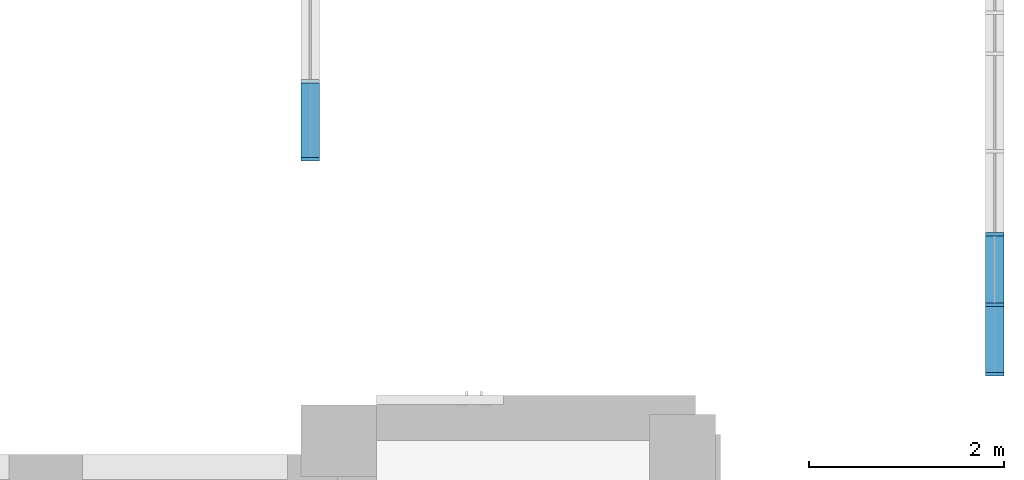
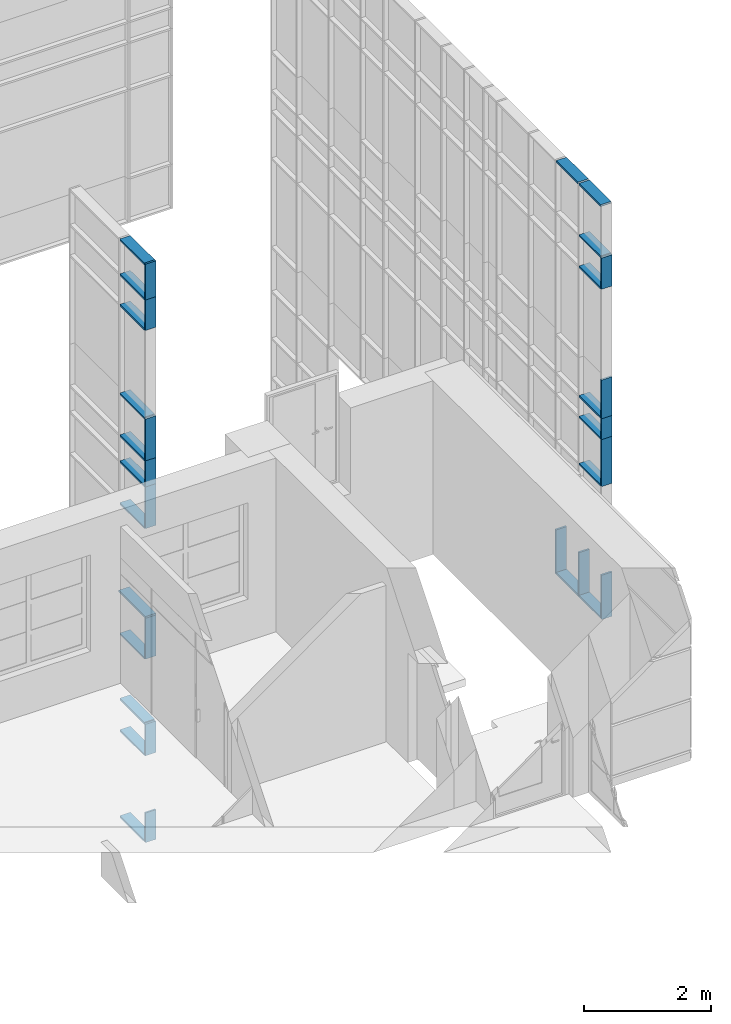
# One storey, part 12 of 73: 36 members, 2 elements without a shape of their own.
"""IFC2X3 building model written with IfcOpenShell, lengths in millimetres."""

from ifc_helpers import new_model, entity, si_unit, converted_unit, derived_unit, direction, frame, frame_2d, origin, origin_2d_with_axis, place, context, subcontext, project, spatial, rectangle, extrude, source, transform, mapped, material, type_object, type_shapes, element, aggregate, save


model = new_model("IFC2X3")

# Units and contexts
model_context = context("Model", 3, precision=0.01, world=origin(), true_north=direction((6.12303176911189e-17, 1.0)))
body_context = subcontext(model_context, "Body", "Model", "MODEL_VIEW")
ifc_project = project(units=[si_unit("LENGTHUNIT", "METRE", prefix="MILLI"), si_unit("AREAUNIT", "SQUARE_METRE"), si_unit("VOLUMEUNIT", "CUBIC_METRE"), converted_unit("PLANEANGLEUNIT", "DEGREE", entity("IfcRatioMeasure", 0.0174532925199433), si_unit("PLANEANGLEUNIT", "RADIAN"), dimensions=[0, 0, 0, 0, 0, 0, 0]), si_unit("MASSUNIT", "GRAM", prefix="KILO"), derived_unit("MASSDENSITYUNIT", [(si_unit("MASSUNIT", "GRAM", prefix="KILO"), 1), (si_unit("LENGTHUNIT", "METRE"), -3)]), si_unit("TIMEUNIT", "SECOND"), si_unit("FREQUENCYUNIT", "HERTZ"), si_unit("THERMODYNAMICTEMPERATUREUNIT", "DEGREE_CELSIUS"), derived_unit("THERMALTRANSMITTANCEUNIT", [(si_unit("MASSUNIT", "GRAM", prefix="KILO"), 1), (si_unit("THERMODYNAMICTEMPERATUREUNIT", "KELVIN"), -1), (si_unit("TIMEUNIT", "SECOND"), -3)]), derived_unit("VOLUMETRICFLOWRATEUNIT", [(si_unit("LENGTHUNIT", "METRE"), 3), (si_unit("TIMEUNIT", "SECOND"), -1)]), si_unit("ELECTRICCURRENTUNIT", "AMPERE"), si_unit("ELECTRICVOLTAGEUNIT", "VOLT"), si_unit("POWERUNIT", "WATT"), si_unit("FORCEUNIT", "NEWTON", prefix="KILO"), si_unit("ILLUMINANCEUNIT", "LUX"), si_unit("LUMINOUSFLUXUNIT", "LUMEN"), si_unit("LUMINOUSINTENSITYUNIT", "CANDELA"), derived_unit("USERDEFINED", [(si_unit("MASSUNIT", "GRAM", prefix="KILO"), -1), (si_unit("LENGTHUNIT", "METRE"), -2), (si_unit("TIMEUNIT", "SECOND"), 3), (si_unit("LUMINOUSFLUXUNIT", "LUMEN"), 1)]), derived_unit("LINEARVELOCITYUNIT", [(si_unit("LENGTHUNIT", "METRE"), 1), (si_unit("TIMEUNIT", "SECOND"), -1)]), si_unit("PRESSUREUNIT", "PASCAL"), derived_unit("USERDEFINED", [(si_unit("LENGTHUNIT", "METRE"), -2), (si_unit("MASSUNIT", "GRAM", prefix="KILO"), 1), (si_unit("TIMEUNIT", "SECOND"), -2)])], contexts=[model_context])

# Site, building, storey
site_placement = place(None, frame((-151.875543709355, 2715.0, 0.0)))
site = spatial("IfcSite", under=ifc_project, at=site_placement, Name="Surface", CompositionType="ELEMENT")
building_placement = place(site_placement, origin())
building = spatial("IfcBuilding", under=site, at=building_placement, CompositionType="ELEMENT")
storey_placement = place(building_placement, frame((0.0, 0.0, 6730.43000000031)))
storey = spatial("IfcBuildingStorey", under=building, at=storey_placement, Name="3 korrus", CompositionType="ELEMENT", Elevation=6730.43000000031)

# Curtain wall, members
curtain_wall_type = type_object("IfcCurtainWallType", Name="Curtain Wall:Klaasfassaad", PredefinedType="NOTDEFINED")
curtain_wall_1_placement = place(storey_placement, frame((0.0, 0.0, -6730.43000000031)))
curtain_wall_1 = element("IfcCurtainWall", 1, at=curtain_wall_1_placement, inside=storey, type_object=curtain_wall_type, Name="Curtain Wall:Klaasfassaad", ObjectType="Curtain Wall:Klaasfassaad")
ifc_material = material(Name="Steel/Aluminium")
member_type_1 = type_object("IfcMemberType", Name="35 x 190mm", PredefinedType="MEMBER")
shared_shape_1 = source(origin(), body_context, "Body", "SweptSolid", [
    extrude(rectangle(XDim=190.0, YDim=35.0, at=origin_2d_with_axis()), frame((-17.5, 0.0, -677.500026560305), z_axis=(0.0, 0.0, 1.0), x_axis=(0.0, -1.0, 0.0)), (0.0, 0.0, 1.0), 677.500026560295),
])
type_shapes(member_type_1, [shared_shape_1])
member_1_placement = place(storey_placement, frame((38701.6162681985, 13445.5004299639, -2856.00226032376), z_axis=(0.0, -1.0, 0.0), x_axis=(0.0, 0.0, -1.0)))
member_1 = element("IfcMember", 2, at=member_1_placement, type_object=member_type_1, material=ifc_material, Name="Rectangular Mullion:35 x 190mm", ObjectType="35 x 190mm", context=body_context, shape_type="MappedRepresentation", body=[
    mapped(shared_shape_1, transform((0.0, 0.0, 0.0), scale=1.0)),
])
member_type_2 = type_object("IfcMemberType", Name="35 x 190mm", PredefinedType="MEMBER")
shared_shape_2 = source(origin(), body_context, "Body", "SweptSolid", [
    extrude(rectangle(XDim=190.0, YDim=35.0, at=origin_2d_with_axis()), frame((-17.5, 0.0, -677.500026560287), z_axis=(0.0, 0.0, 1.0), x_axis=(0.0, -1.0, 0.0)), (0.0, 0.0, 1.0), 677.500026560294),
])
type_shapes(member_type_2, [shared_shape_2])
member_2_placement = place(storey_placement, frame((38701.6162681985, 14123.0004565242, 5074.47692901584), z_axis=(0.0, 1.0, 0.0), x_axis=(0.0, 0.0, 1.0)))
member_2 = element("IfcMember", 3, at=member_2_placement, type_object=member_type_2, material=ifc_material, Name="Rectangular Mullion:35 x 190mm", ObjectType="35 x 190mm", context=body_context, shape_type="MappedRepresentation", body=[
    mapped(shared_shape_2, transform((0.0, 0.0, 0.0), scale=1.0)),
])
member_type_3 = type_object("IfcMemberType", Name="35 x 190mm", PredefinedType="MEMBER")
shared_shape_3 = source(origin(), body_context, "Body", "SweptSolid", [
    extrude(rectangle(XDim=190.0, YDim=35.0, at=origin_2d_with_axis()), frame((-17.5, 0.0, -685.0), z_axis=(0.0, 0.0, 1.0), x_axis=(0.0, -1.0, 0.0)), (0.0, 0.0, 1.0), 684.999999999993),
])
type_shapes(member_type_3, [shared_shape_3])
member_3_placement = place(storey_placement, frame((38701.6162681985, 14158.0004565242, -2856.00226032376), z_axis=(0.0, -1.0, 0.0), x_axis=(0.0, 0.0, -1.0)))
member_3 = element("IfcMember", 4, at=member_3_placement, type_object=member_type_3, material=ifc_material, Name="Rectangular Mullion:35 x 190mm", ObjectType="35 x 190mm", context=body_context, shape_type="MappedRepresentation", body=[
    mapped(shared_shape_3, transform((0.0, 0.0, 0.0), scale=1.0)),
])
member_type_4 = type_object("IfcMemberType", Name="35 x 190mm", PredefinedType="MEMBER")
shared_shape_4 = source(origin(), body_context, "Body", "SweptSolid", [
    extrude(rectangle(XDim=190.0, YDim=35.0, at=origin_2d_with_axis()), frame((-17.5, 0.0, -685.0), z_axis=(0.0, 0.0, 1.0), x_axis=(0.0, -1.0, 0.0)), (0.0, 0.0, 1.0), 684.999999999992),
])
type_shapes(member_type_4, [shared_shape_4])
member_4_placement = place(storey_placement, frame((38701.6162681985, 14843.0004565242, 5074.47692901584), z_axis=(0.0, 1.0, 0.0), x_axis=(0.0, 0.0, 1.0)))
member_4 = element("IfcMember", 5, at=member_4_placement, type_object=member_type_4, material=ifc_material, Name="Rectangular Mullion:35 x 190mm", ObjectType="35 x 190mm", context=body_context, shape_type="MappedRepresentation", body=[
    mapped(shared_shape_4, transform((0.0, 0.0, 0.0), scale=1.0)),
])
member_type_5 = type_object("IfcMemberType", Name="35 x 190mm", PredefinedType="MEMBER")
shared_shape_5 = source(origin(), body_context, "Body", "SweptSolid", [
    extrude(rectangle(XDim=190.0, YDim=35.0, at=origin_2d_with_axis()), frame((-17.5, 0.0, -600.0), z_axis=(0.0, 0.0, 1.0), x_axis=(0.0, -1.0, 0.0)), (0.0, 0.0, 1.0), 600.0),
])
type_shapes(member_type_5, [shared_shape_5])
member_5_placement = place(storey_placement, frame((38701.6162681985, 13410.5004299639, 4074.47692901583), z_axis=(0.0, 0.0, 1.0), x_axis=(0.0, -1.0, 0.0)))
member_5 = element("IfcMember", 6, at=member_5_placement, type_object=member_type_5, material=ifc_material, Name="Rectangular Mullion:35 x 190mm", ObjectType="35 x 190mm", context=body_context, shape_type="MappedRepresentation", body=[
    mapped(shared_shape_5, transform((0.0, 0.0, 0.0), scale=1.0)),
])
member_type_6 = type_object("IfcMemberType", Name="35 x 190mm", PredefinedType="MEMBER")
shared_shape_6 = source(origin(), body_context, "Body", "SweptSolid", [
    extrude(rectangle(XDim=190.0, YDim=35.0, at=origin_2d_with_axis()), frame((-17.5, 0.0, -400.0), z_axis=(0.0, 0.0, 1.0), x_axis=(0.0, -1.0, 0.0)), (0.0, 0.0, 1.0), 399.999999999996),
])
type_shapes(member_type_6, [shared_shape_6])
member_6_placement = place(storey_placement, frame((38701.6162681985, 13410.5004299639, 994.476929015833), z_axis=(0.0, 0.0, 1.0), x_axis=(0.0, -1.0, 0.0)))
member_6 = element("IfcMember", 7, at=member_6_placement, type_object=member_type_6, material=ifc_material, Name="Rectangular Mullion:35 x 190mm", ObjectType="35 x 190mm", context=body_context, shape_type="MappedRepresentation", body=[
    mapped(shared_shape_6, transform((0.0, 0.0, 0.0), scale=1.0)),
])
member_type_7 = type_object("IfcMemberType", Name="35 x 190mm", PredefinedType="MEMBER")
shared_shape_7 = source(origin(), body_context, "Body", "SweptSolid", [
    extrude(rectangle(XDim=190.0, YDim=35.0, at=origin_2d_with_axis()), frame((-17.5, 0.0, -900.0), z_axis=(0.0, 0.0, 1.0), x_axis=(0.0, -1.0, 0.0)), (0.0, 0.0, 1.0), 900.000000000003),
])
type_shapes(member_type_7, [shared_shape_7])
member_7_placement = place(storey_placement, frame((38701.6162681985, 13410.5004299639, 594.476929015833), z_axis=(0.0, 0.0, 1.0), x_axis=(0.0, -1.0, 0.0)))
member_7 = element("IfcMember", 8, at=member_7_placement, type_object=member_type_7, material=ifc_material, Name="Rectangular Mullion:35 x 190mm", ObjectType="35 x 190mm", context=body_context, shape_type="MappedRepresentation", body=[
    mapped(shared_shape_7, transform((0.0, 0.0, 0.0), scale=1.0)),
])
member_type_8 = type_object("IfcMemberType", Name="35 x 190mm", PredefinedType="MEMBER")
shared_shape_8 = source(origin(), body_context, "Body", "SweptSolid", [
    extrude(rectangle(XDim=190.0, YDim=35.0, at=origin_2d_with_axis()), frame((0.0, 0.0, -850.159729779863), z_axis=(0.0, 0.0, 1.0), x_axis=(0.0, -1.0, 0.0)), (0.0, 0.0, 1.0), 850.159729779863),
])
type_shapes(member_type_8, [shared_shape_8])
member_8_placement = place(storey_placement, frame((38701.6162681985, 14140.5004565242, -2856.00226032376), z_axis=(0.0, 0.0, -1.0), x_axis=(0.0, 1.0, 0.0)))
member_8 = element("IfcMember", 9, at=member_8_placement, type_object=member_type_8, material=ifc_material, Name="Rectangular Mullion:35 x 190mm", ObjectType="35 x 190mm", context=body_context, shape_type="MappedRepresentation", body=[
    mapped(shared_shape_8, transform((0.0, 0.0, 0.0), scale=1.0)),
])
member_9_placement = place(storey_placement, frame((38701.6162681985, 14860.5004565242, -2856.00226032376), z_axis=(0.0, 0.0, -1.0), x_axis=(0.0, 1.0, 0.0)))
member_9 = element("IfcMember", 10, at=member_9_placement, type_object=member_type_8, material=ifc_material, Name="Rectangular Mullion:35 x 190mm", ObjectType="35 x 190mm", context=body_context, shape_type="MappedRepresentation", body=[
    mapped(shared_shape_8, transform((0.0, 0.0, 0.0), scale=1.0)),
])
member_type_9 = type_object("IfcMemberType", Name="35 x 190mm", PredefinedType="MEMBER")
shared_shape_9 = source(origin(), body_context, "Body", "SweptSolid", [
    extrude(rectangle(XDim=190.0, YDim=35.0, at=origin_2d_with_axis()), frame((0.0, 0.0, -677.500026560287), z_axis=(0.0, 0.0, 1.0), x_axis=(0.0, -1.0, 0.0)), (0.0, 0.0, 1.0), 677.500026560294),
])
type_shapes(member_type_9, [shared_shape_9])
member_10_placement = place(storey_placement, frame((38701.6162681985, 14123.0004565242, 4074.47692901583), z_axis=(0.0, 1.0, 0.0), x_axis=(0.0, 0.0, 1.0)))
member_10 = element("IfcMember", 11, at=member_10_placement, type_object=member_type_9, material=ifc_material, Name="Rectangular Mullion:35 x 190mm", ObjectType="35 x 190mm", context=body_context, shape_type="MappedRepresentation", body=[
    mapped(shared_shape_9, transform((0.0, 0.0, 0.0), scale=1.0)),
])
member_type_10 = type_object("IfcMemberType", Name="35 x 190mm", PredefinedType="MEMBER")
shared_shape_10 = source(origin(), body_context, "Body", "SweptSolid", [
    extrude(rectangle(XDim=190.0, YDim=35.0, at=origin_2d_with_axis()), frame((0.0, 0.0, -677.500026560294), z_axis=(0.0, 0.0, 1.0), x_axis=(0.0, -1.0, 0.0)), (0.0, 0.0, 1.0), 677.500026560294),
])
type_shapes(member_type_10, [shared_shape_10])
member_11_placement = place(storey_placement, frame((38701.6162681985, 14123.0004565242, 3474.47692901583), z_axis=(0.0, 1.0, 0.0), x_axis=(0.0, 0.0, 1.0)))
member_11 = element("IfcMember", 12, at=member_11_placement, type_object=member_type_10, material=ifc_material, Name="Rectangular Mullion:35 x 190mm", ObjectType="35 x 190mm", context=body_context, shape_type="MappedRepresentation", body=[
    mapped(shared_shape_10, transform((0.0, 0.0, 0.0), scale=1.0)),
])
member_type_11 = type_object("IfcMemberType", Name="35 x 190mm", PredefinedType="MEMBER")
shared_shape_11 = source(origin(), body_context, "Body", "SweptSolid", [
    extrude(rectangle(XDim=190.0, YDim=35.0, at=origin_2d_with_axis()), frame((0.0, 0.0, -677.500026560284), z_axis=(0.0, 0.0, 1.0), x_axis=(0.0, -1.0, 0.0)), (0.0, 0.0, 1.0), 677.500026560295),
])
type_shapes(member_type_11, [shared_shape_11])
member_12_placement = place(storey_placement, frame((38701.6162681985, 14123.0004565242, 994.476929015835), z_axis=(0.0, 1.0, 0.0), x_axis=(0.0, 0.0, 1.0)))
member_12 = element("IfcMember", 13, at=member_12_placement, type_object=member_type_11, material=ifc_material, Name="Rectangular Mullion:35 x 190mm", ObjectType="35 x 190mm", context=body_context, shape_type="MappedRepresentation", body=[
    mapped(shared_shape_11, transform((0.0, 0.0, 0.0), scale=1.0)),
])
member_type_12 = type_object("IfcMemberType", Name="35 x 190mm", PredefinedType="MEMBER")
shared_shape_12 = source(origin(), body_context, "Body", "SweptSolid", [
    extrude(rectangle(XDim=190.0, YDim=35.0, at=origin_2d_with_axis()), frame((0.0, 0.0, -677.500026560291), z_axis=(0.0, 0.0, 1.0), x_axis=(0.0, -1.0, 0.0)), (0.0, 0.0, 1.0), 677.500026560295),
])
type_shapes(member_type_12, [shared_shape_12])
member_13_placement = place(storey_placement, frame((38701.6162681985, 14123.0004565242, 594.476929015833), z_axis=(0.0, 1.0, 0.0), x_axis=(0.0, 0.0, 1.0)))
member_13 = element("IfcMember", 14, at=member_13_placement, type_object=member_type_12, material=ifc_material, Name="Rectangular Mullion:35 x 190mm", ObjectType="35 x 190mm", context=body_context, shape_type="MappedRepresentation", body=[
    mapped(shared_shape_12, transform((0.0, 0.0, 0.0), scale=1.0)),
])
member_type_13 = type_object("IfcMemberType", Name="35 x 190mm", PredefinedType="MEMBER")
shared_shape_13 = source(origin(), body_context, "Body", "SweptSolid", [
    extrude(rectangle(XDim=190.0, YDim=35.0, at=origin_2d_with_axis()), frame((0.0, 0.0, -677.500026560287), z_axis=(0.0, 0.0, 1.0), x_axis=(0.0, -1.0, 0.0)), (0.0, 0.0, 1.0), 677.500026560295),
])
type_shapes(member_type_13, [shared_shape_13])
member_14_placement = place(storey_placement, frame((38701.6162681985, 14123.0004565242, -305.523070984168), z_axis=(0.0, 1.0, 0.0), x_axis=(0.0, 0.0, 1.0)))
member_14 = element("IfcMember", 15, at=member_14_placement, type_object=member_type_13, material=ifc_material, Name="Rectangular Mullion:35 x 190mm", ObjectType="35 x 190mm", context=body_context, shape_type="MappedRepresentation", body=[
    mapped(shared_shape_13, transform((0.0, 0.0, 0.0), scale=1.0)),
])
member_type_14 = type_object("IfcMemberType", Name="35 x 190mm", PredefinedType="MEMBER")
shared_shape_14 = source(origin(), body_context, "Body", "SweptSolid", [
    extrude(rectangle(XDim=190.0, YDim=35.0, at=origin_2d_with_axis()), frame((-17.5, 0.0, -740.0), z_axis=(0.0, 0.0, 1.0), x_axis=(0.0, -1.0, 0.0)), (0.0, 0.0, 1.0), 740.000000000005),
])
type_shapes(member_type_14, [shared_shape_14])
member_15_placement = place(storey_placement, frame((38701.6162681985, 13410.5004299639, 1734.47692901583), z_axis=(0.0, 0.0, 1.0), x_axis=(0.0, -1.0, 0.0)))
member_15 = element("IfcMember", 16, at=member_15_placement, type_object=member_type_14, material=ifc_material, Name="Rectangular Mullion:35 x 190mm", ObjectType="35 x 190mm", context=body_context, shape_type="MappedRepresentation", body=[
    mapped(shared_shape_14, transform((0.0, 0.0, 0.0), scale=1.0)),
])
member_type_15 = type_object("IfcMemberType", Name="35 x 190mm", PredefinedType="MEMBER")
shared_shape_15 = source(origin(), body_context, "Body", "SweptSolid", [
    extrude(rectangle(XDim=190.0, YDim=35.0, at=origin_2d_with_axis()), frame((-17.5, 0.0, -850.159729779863), z_axis=(0.0, 0.0, 1.0), x_axis=(0.0, -1.0, 0.0)), (0.0, 0.0, 1.0), 850.159729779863),
])
type_shapes(member_type_15, [shared_shape_15])
member_16_placement = place(storey_placement, frame((38701.6162681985, 13410.5004299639, -2005.8425305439), z_axis=(0.0, 0.0, 1.0), x_axis=(0.0, -1.0, 0.0)))
member_16 = element("IfcMember", 17, at=member_16_placement, type_object=member_type_15, material=ifc_material, Name="Rectangular Mullion:35 x 190mm", ObjectType="35 x 190mm", context=body_context, shape_type="MappedRepresentation", body=[
    mapped(shared_shape_15, transform((0.0, 0.0, 0.0), scale=1.0)),
])
aggregate(curtain_wall_1, [member_1, member_2, member_3, member_4, member_5, member_6, member_7, member_8, member_9, member_10, member_11, member_12, member_13, member_14, member_15, member_16])

curtain_wall_2_placement = place(storey_placement, frame((0.0, 0.0, -6730.43000000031)))
curtain_wall_2 = element("IfcCurtainWall", 18, at=curtain_wall_2_placement, inside=storey, type_object=curtain_wall_type, Name="Curtain Wall:Klaasfassaad", ObjectType="Curtain Wall:Klaasfassaad")
member_type_16 = type_object("IfcMemberType", Name="35 x 190mm", PredefinedType="MEMBER")
shared_shape_16 = source(origin(), body_context, "Body", "SweptSolid", [
    extrude(rectangle(XDim=190.0, YDim=35.0, at=frame_2d((1.13686837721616e-13, 0.0), x_axis=(1.0, 0.0))), frame((-17.5, 0.0, -767.454261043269), z_axis=(0.0, 0.0, 1.0), x_axis=(0.0, -1.0, 0.0)), (0.0, 0.0, 1.0), 767.454261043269),
])
type_shapes(member_type_16, [shared_shape_16])
member_17_placement = place(storey_placement, frame((31697.6162682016, 15645.0, 5074.47692901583), z_axis=(0.0, -1.0, 0.0), x_axis=(0.0, 0.0, 1.0)))
member_17 = element("IfcMember", 19, at=member_17_placement, type_object=member_type_16, material=ifc_material, Name="Rectangular Mullion:35 x 190mm", ObjectType="35 x 190mm", context=body_context, shape_type="MappedRepresentation", body=[
    mapped(shared_shape_16, transform((0.0, 0.0, 0.0), scale=1.0)),
])
member_type_17 = type_object("IfcMemberType", Name="35 x 190mm", PredefinedType="MEMBER")
shared_shape_17 = source(origin(), body_context, "Body", "SweptSolid", [
    extrude(rectangle(XDim=190.0, YDim=35.0, at=origin_2d_with_axis()), frame((-17.5, 0.0, -568.724873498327), z_axis=(0.0, 0.0, 1.0), x_axis=(0.0, -1.0, 0.0)), (0.0, 0.0, 1.0), 568.724873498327),
])
type_shapes(member_type_17, [shared_shape_17])
member_18_placement = place(storey_placement, frame((31697.6162682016, 15610.0, -6015.42999999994), z_axis=(0.0, 0.0, -1.0), x_axis=(0.0, -1.0, 0.0)))
member_18 = element("IfcMember", 20, at=member_18_placement, type_object=member_type_17, material=ifc_material, Name="Rectangular Mullion:35 x 190mm", ObjectType="35 x 190mm", context=body_context, shape_type="MappedRepresentation", body=[
    mapped(shared_shape_17, transform((0.0, 0.0, 0.0), scale=1.0)),
])
member_type_18 = type_object("IfcMemberType", Name="35 x 190mm", PredefinedType="MEMBER")
shared_shape_18 = source(origin(), body_context, "Body", "SweptSolid", [
    extrude(rectangle(XDim=190.0, YDim=35.0, at=frame_2d((3.5527136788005e-14, 0.0), x_axis=(1.0, 0.0))), frame((-17.5, 0.0, -767.500000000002), z_axis=(0.0, 0.0, 1.0), x_axis=(0.0, -1.0, 0.0)), (0.0, 0.0, 1.0), 767.500000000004),
])
type_shapes(member_type_18, [shared_shape_18])
member_19_placement = place(storey_placement, frame((31697.6162682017, 16412.4542610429, -6015.42999999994), z_axis=(0.0, 1.0, 0.0), x_axis=(0.0, 0.0, -1.0)))
member_19 = element("IfcMember", 21, at=member_19_placement, type_object=member_type_18, material=ifc_material, Name="Rectangular Mullion:35 x 190mm", ObjectType="35 x 190mm", context=body_context, shape_type="MappedRepresentation", body=[
    mapped(shared_shape_18, transform((0.0, 0.0, 0.0), scale=1.0)),
])
member_type_19 = type_object("IfcMemberType", Name="35 x 190mm", PredefinedType="MEMBER")
shared_shape_19 = source(origin(), body_context, "Body", "SweptSolid", [
    extrude(rectangle(XDim=190.0, YDim=35.0, at=origin_2d_with_axis()), frame((-17.5, 0.0, -585.0), z_axis=(0.0, 0.0, 1.0), x_axis=(0.0, -1.0, 0.0)), (0.0, 0.0, 1.0), 585.000000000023),
])
type_shapes(member_type_19, [shared_shape_19])
member_20_placement = place(storey_placement, frame((31697.6162682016, 15610.0, 3803.29487349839), z_axis=(0.0, 0.0, -1.0), x_axis=(0.0, -1.0, 0.0)))
member_20 = element("IfcMember", 22, at=member_20_placement, type_object=member_type_19, material=ifc_material, Name="Rectangular Mullion:35 x 190mm", ObjectType="35 x 190mm", context=body_context, shape_type="MappedRepresentation", body=[
    mapped(shared_shape_19, transform((0.0, 0.0, 0.0), scale=1.0)),
])
member_type_20 = type_object("IfcMemberType", Name="35 x 190mm", PredefinedType="MEMBER")
shared_shape_20 = source(origin(), body_context, "Body", "SweptSolid", [
    extrude(rectangle(XDim=190.0, YDim=35.0, at=origin_2d_with_axis()), frame((-17.5, 0.0, -500.0), z_axis=(0.0, 0.0, 1.0), x_axis=(0.0, -1.0, 0.0)), (0.0, 0.0, 1.0), 499.999999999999),
])
type_shapes(member_type_20, [shared_shape_20])
member_21_placement = place(storey_placement, frame((31697.6162682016, 15610.0, 803.294873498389), z_axis=(0.0, 0.0, -1.0), x_axis=(0.0, -1.0, 0.0)))
member_21 = element("IfcMember", 23, at=member_21_placement, type_object=member_type_20, material=ifc_material, Name="Rectangular Mullion:35 x 190mm", ObjectType="35 x 190mm", context=body_context, shape_type="MappedRepresentation", body=[
    mapped(shared_shape_20, transform((0.0, 0.0, 0.0), scale=1.0)),
])
member_type_21 = type_object("IfcMemberType", Name="35 x 190mm", PredefinedType="MEMBER")
shared_shape_21 = source(origin(), body_context, "Body", "SweptSolid", [
    extrude(rectangle(XDim=190.0, YDim=35.0, at=origin_2d_with_axis()), frame((-17.5, 0.0, -800.0), z_axis=(0.0, 0.0, 1.0), x_axis=(0.0, -1.0, 0.0)), (0.0, 0.0, 1.0), 800.0),
])
type_shapes(member_type_21, [shared_shape_21])
member_22_placement = place(storey_placement, frame((31697.6162682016, 15610.0, 3.29487349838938), z_axis=(0.0, 0.0, -1.0), x_axis=(0.0, -1.0, 0.0)))
member_22 = element("IfcMember", 24, at=member_22_placement, type_object=member_type_21, material=ifc_material, Name="Rectangular Mullion:35 x 190mm", ObjectType="35 x 190mm", context=body_context, shape_type="MappedRepresentation", body=[
    mapped(shared_shape_21, transform((0.0, 0.0, 0.0), scale=1.0)),
])
member_23_placement = place(storey_placement, frame((31697.6162682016, 15610.0, 1303.29487349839), z_axis=(0.0, 0.0, -1.0), x_axis=(0.0, -1.0, 0.0)))
member_23 = element("IfcMember", 25, at=member_23_placement, type_object=member_type_21, material=ifc_material, Name="Rectangular Mullion:35 x 190mm", ObjectType="35 x 190mm", context=body_context, shape_type="MappedRepresentation", body=[
    mapped(shared_shape_21, transform((0.0, 0.0, 0.0), scale=1.0)),
])
member_type_22 = type_object("IfcMemberType", Name="35 x 190mm", PredefinedType="MEMBER")
shared_shape_22 = source(origin(), body_context, "Body", "SweptSolid", [
    extrude(rectangle(XDim=190.0, YDim=35.0, at=origin_2d_with_axis()), frame((-17.5, 0.0, -601.749025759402), z_axis=(0.0, 0.0, 1.0), x_axis=(0.0, -1.0, 0.0)), (0.0, 0.0, 1.0), 601.749025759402),
])
type_shapes(member_type_22, [shared_shape_22])
member_24_placement = place(storey_placement, frame((31697.6162682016, 15610.0, -4348.45415226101), z_axis=(0.0, 0.0, -1.0), x_axis=(0.0, -1.0, 0.0)))
member_24 = element("IfcMember", 26, at=member_24_placement, type_object=member_type_22, material=ifc_material, Name="Rectangular Mullion:35 x 190mm", ObjectType="35 x 190mm", context=body_context, shape_type="MappedRepresentation", body=[
    mapped(shared_shape_22, transform((0.0, 0.0, 0.0), scale=1.0)),
])
member_type_23 = type_object("IfcMemberType", Name="35 x 190mm", PredefinedType="MEMBER")
shared_shape_23 = source(origin(), body_context, "Body", "SweptSolid", [
    extrude(rectangle(XDim=190.0, YDim=35.0, at=origin_2d_with_axis()), frame((0.0, 0.0, -767.50000000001), z_axis=(0.0, 0.0, 1.0), x_axis=(0.0, -1.0, 0.0)), (0.0, 0.0, 1.0), 767.500000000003),
])
type_shapes(member_type_23, [shared_shape_23])
member_25_placement = place(storey_placement, frame((31697.6162682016, 15645.0, 3803.29487349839), z_axis=(0.0, -1.0, 0.0), x_axis=(0.0, 0.0, 1.0)))
member_25 = element("IfcMember", 27, at=member_25_placement, type_object=member_type_23, material=ifc_material, Name="Rectangular Mullion:35 x 190mm", ObjectType="35 x 190mm", context=body_context, shape_type="MappedRepresentation", body=[
    mapped(shared_shape_23, transform((0.0, 0.0, 0.0), scale=1.0)),
])
member_type_24 = type_object("IfcMemberType", Name="35 x 190mm", PredefinedType="MEMBER")
shared_shape_24 = source(origin(), body_context, "Body", "SweptSolid", [
    extrude(rectangle(XDim=190.0, YDim=35.0, at=origin_2d_with_axis()), frame((0.0, 0.0, -767.50000000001), z_axis=(0.0, 0.0, 1.0), x_axis=(0.0, -1.0, 0.0)), (0.0, 0.0, 1.0), 767.500000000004),
])
type_shapes(member_type_24, [shared_shape_24])
member_26_placement = place(storey_placement, frame((31697.6162682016, 15645.0, 2103.29487349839), z_axis=(0.0, -1.0, 0.0), x_axis=(0.0, 0.0, 1.0)))
member_26 = element("IfcMember", 28, at=member_26_placement, type_object=member_type_24, material=ifc_material, Name="Rectangular Mullion:35 x 190mm", ObjectType="35 x 190mm", context=body_context, shape_type="MappedRepresentation", body=[
    mapped(shared_shape_24, transform((0.0, 0.0, 0.0), scale=1.0)),
])
member_type_25 = type_object("IfcMemberType", Name="35 x 190mm", PredefinedType="MEMBER")
shared_shape_25 = source(origin(), body_context, "Body", "SweptSolid", [
    extrude(rectangle(XDim=190.0, YDim=35.0, at=origin_2d_with_axis()), frame((0.0, 0.0, -767.50000000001), z_axis=(0.0, 0.0, 1.0), x_axis=(0.0, -1.0, 0.0)), (0.0, 0.0, 1.0), 767.500000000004),
])
type_shapes(member_type_25, [shared_shape_25])
member_27_placement = place(storey_placement, frame((31697.6162682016, 15645.0, 803.294873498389), z_axis=(0.0, -1.0, 0.0), x_axis=(0.0, 0.0, 1.0)))
member_27 = element("IfcMember", 29, at=member_27_placement, type_object=member_type_25, material=ifc_material, Name="Rectangular Mullion:35 x 190mm", ObjectType="35 x 190mm", context=body_context, shape_type="MappedRepresentation", body=[
    mapped(shared_shape_25, transform((0.0, 0.0, 0.0), scale=1.0)),
])
member_type_26 = type_object("IfcMemberType", Name="35 x 190mm", PredefinedType="MEMBER")
shared_shape_26 = source(origin(), body_context, "Body", "SweptSolid", [
    extrude(rectangle(XDim=190.0, YDim=35.0, at=origin_2d_with_axis()), frame((0.0, 0.0, -767.50000000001), z_axis=(0.0, 0.0, 1.0), x_axis=(0.0, -1.0, 0.0)), (0.0, 0.0, 1.0), 767.500000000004),
])
type_shapes(member_type_26, [shared_shape_26])
member_28_placement = place(storey_placement, frame((31697.6162682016, 15645.0, 3.29487349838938), z_axis=(0.0, -1.0, 0.0), x_axis=(0.0, 0.0, 1.0)))
member_28 = element("IfcMember", 30, at=member_28_placement, type_object=member_type_26, material=ifc_material, Name="Rectangular Mullion:35 x 190mm", ObjectType="35 x 190mm", context=body_context, shape_type="MappedRepresentation", body=[
    mapped(shared_shape_26, transform((0.0, 0.0, 0.0), scale=1.0)),
])
member_type_27 = type_object("IfcMemberType", Name="35 x 190mm", PredefinedType="MEMBER")
shared_shape_27 = source(origin(), body_context, "Body", "SweptSolid", [
    extrude(rectangle(XDim=190.0, YDim=35.0, at=origin_2d_with_axis()), frame((0.0, 0.0, -837.500000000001), z_axis=(0.0, 0.0, 1.0), x_axis=(0.0, -1.0, 0.0)), (0.0, 0.0, 1.0), 837.500000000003),
])
type_shapes(member_type_27, [shared_shape_27])
member_29_placement = place(storey_placement, frame((31697.6162682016, 15610.0, -1696.70512650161), z_axis=(0.0, -1.0, 0.0), x_axis=(0.0, 0.0, 1.0)))
member_29 = element("IfcMember", 31, at=member_29_placement, type_object=member_type_27, material=ifc_material, Name="Rectangular Mullion:35 x 190mm", ObjectType="35 x 190mm", context=body_context, shape_type="MappedRepresentation", body=[
    mapped(shared_shape_27, transform((0.0, 0.0, 0.0), scale=1.0)),
])
member_type_28 = type_object("IfcMemberType", Name="35 x 190mm", PredefinedType="MEMBER")
shared_shape_28 = source(origin(), body_context, "Body", "SweptSolid", [
    extrude(rectangle(XDim=190.0, YDim=35.0, at=origin_2d_with_axis()), frame((0.0, 0.0, -767.45426104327), z_axis=(0.0, 0.0, 1.0), x_axis=(0.0, -1.0, 0.0)), (0.0, 0.0, 1.0), 767.45426104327),
])
type_shapes(member_type_28, [shared_shape_28])
member_30_placement = place(storey_placement, frame((31697.6162682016, 15645.0, -3746.70512650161), z_axis=(0.0, -1.0, 0.0), x_axis=(0.0, 0.0, 1.0)))
member_30 = element("IfcMember", 32, at=member_30_placement, type_object=member_type_28, material=ifc_material, Name="Rectangular Mullion:35 x 190mm", ObjectType="35 x 190mm", context=body_context, shape_type="MappedRepresentation", body=[
    mapped(shared_shape_28, transform((0.0, 0.0, 0.0), scale=1.0)),
])
member_type_29 = type_object("IfcMemberType", Name="35 x 190mm", PredefinedType="MEMBER")
shared_shape_29 = source(origin(), body_context, "Body", "SweptSolid", [
    extrude(rectangle(XDim=190.0, YDim=35.0, at=origin_2d_with_axis()), frame((0.0, 0.0, -767.45426104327), z_axis=(0.0, 0.0, 1.0), x_axis=(0.0, -1.0, 0.0)), (0.0, 0.0, 1.0), 767.45426104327),
])
type_shapes(member_type_29, [shared_shape_29])
member_31_placement = place(storey_placement, frame((31697.6162682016, 15645.0, -4348.45415226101), z_axis=(0.0, -1.0, 0.0), x_axis=(0.0, 0.0, 1.0)))
member_31 = element("IfcMember", 33, at=member_31_placement, type_object=member_type_29, material=ifc_material, Name="Rectangular Mullion:35 x 190mm", ObjectType="35 x 190mm", context=body_context, shape_type="MappedRepresentation", body=[
    mapped(shared_shape_29, transform((0.0, 0.0, 0.0), scale=1.0)),
])
member_type_30 = type_object("IfcMemberType", Name="35 x 190mm", PredefinedType="MEMBER")
shared_shape_30 = source(origin(), body_context, "Body", "SweptSolid", [
    extrude(rectangle(XDim=190.000000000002, YDim=35.0, at=origin_2d_with_axis()), frame((-17.5, 0.0, -782.5), z_axis=(0.0, 0.0, 1.0), x_axis=(0.0, -1.0, 0.0)), (0.0, 0.0, 1.0), 782.5),
])
type_shapes(member_type_30, [shared_shape_30])
member_32_placement = place(storey_placement, frame((31697.6162682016, 15610.0, -2496.70512650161), z_axis=(0.0, 0.0, -1.0), x_axis=(0.0, -1.0, 0.0)))
member_32 = element("IfcMember", 34, at=member_32_placement, type_object=member_type_30, material=ifc_material, Name="Rectangular Mullion:35 x 190mm", ObjectType="35 x 190mm", context=body_context, shape_type="MappedRepresentation", body=[
    mapped(shared_shape_30, transform((0.0, 0.0, 0.0), scale=1.0)),
])
member_type_31 = type_object("IfcMemberType", Name="35 x 190mm", PredefinedType="MEMBER")
shared_shape_31 = source(origin(), body_context, "Body", "SweptSolid", [
    extrude(rectangle(XDim=190.0, YDim=35.0, at=origin_2d_with_axis()), frame((0.0, 0.0, -767.50000000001), z_axis=(0.0, 0.0, 1.0), x_axis=(0.0, -1.0, 0.0)), (0.0, 0.0, 1.0), 767.500000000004),
])
type_shapes(member_type_31, [shared_shape_31])
member_33_placement = place(storey_placement, frame((31697.6162682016, 15645.0, 1303.29487349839), z_axis=(0.0, -1.0, 0.0), x_axis=(0.0, 0.0, 1.0)))
member_33 = element("IfcMember", 35, at=member_33_placement, type_object=member_type_31, material=ifc_material, Name="Rectangular Mullion:35 x 190mm", ObjectType="35 x 190mm", context=body_context, shape_type="MappedRepresentation", body=[
    mapped(shared_shape_31, transform((0.0, 0.0, 0.0), scale=1.0)),
])
member_type_32 = type_object("IfcMemberType", Name="35 x 190mm", PredefinedType="MEMBER")
shared_shape_32 = source(origin(), body_context, "Body", "SweptSolid", [
    extrude(rectangle(XDim=190.0, YDim=35.0, at=origin_2d_with_axis()), frame((0.0, 0.0, -767.50000000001), z_axis=(0.0, 0.0, 1.0), x_axis=(0.0, -1.0, 0.0)), (0.0, 0.0, 1.0), 767.500000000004),
])
type_shapes(member_type_32, [shared_shape_32])
member_34_placement = place(storey_placement, frame((31697.6162682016, 15645.0, -2496.70512650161), z_axis=(0.0, -1.0, 0.0), x_axis=(0.0, 0.0, 1.0)))
member_34 = element("IfcMember", 36, at=member_34_placement, type_object=member_type_32, material=ifc_material, Name="Rectangular Mullion:35 x 190mm", ObjectType="35 x 190mm", context=body_context, shape_type="MappedRepresentation", body=[
    mapped(shared_shape_32, transform((0.0, 0.0, 0.0), scale=1.0)),
])
member_type_33 = type_object("IfcMemberType", Name="35 x 190mm", PredefinedType="MEMBER")
shared_shape_33 = source(origin(), body_context, "Body", "SweptSolid", [
    extrude(rectangle(XDim=190.0, YDim=35.0, at=origin_2d_with_axis()), frame((-17.5, 0.0, -686.182055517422), z_axis=(0.0, 0.0, 1.0), x_axis=(0.0, -1.0, 0.0)), (0.0, 0.0, 1.0), 686.182055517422),
])
type_shapes(member_type_33, [shared_shape_33])
member_35_placement = place(storey_placement, frame((31697.6162682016, 15610.0, 4388.29487349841), z_axis=(0.0, 0.0, -1.0), x_axis=(0.0, -1.0, 0.0)))
member_35 = element("IfcMember", 37, at=member_35_placement, type_object=member_type_33, material=ifc_material, Name="Rectangular Mullion:35 x 190mm", ObjectType="35 x 190mm", context=body_context, shape_type="MappedRepresentation", body=[
    mapped(shared_shape_33, transform((0.0, 0.0, 0.0), scale=1.0)),
])
member_type_34 = type_object("IfcMemberType", Name="35 x 190mm", PredefinedType="MEMBER")
shared_shape_34 = source(origin(), body_context, "Body", "SweptSolid", [
    extrude(rectangle(XDim=190.0, YDim=35.0, at=origin_2d_with_axis()), frame((0.0, 0.0, -767.454261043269), z_axis=(0.0, 0.0, 1.0), x_axis=(0.0, -1.0, 0.0)), (0.0, 0.0, 1.0), 767.454261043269),
])
type_shapes(member_type_34, [shared_shape_34])
member_36_placement = place(storey_placement, frame((31697.6162682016, 15645.0, 4388.29487349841), z_axis=(0.0, -1.0, 0.0), x_axis=(0.0, 0.0, 1.0)))
member_36 = element("IfcMember", 38, at=member_36_placement, type_object=member_type_34, material=ifc_material, Name="Rectangular Mullion:35 x 190mm", ObjectType="35 x 190mm", context=body_context, shape_type="MappedRepresentation", body=[
    mapped(shared_shape_34, transform((0.0, 0.0, 0.0), scale=1.0)),
])
aggregate(curtain_wall_2, [member_17, member_18, member_19, member_20, member_21, member_22, member_24, member_25, member_26, member_27, member_28, member_29, member_30, member_31, member_23, member_32, member_33, member_34, member_35, member_36])

save(model, "model.ifc")
